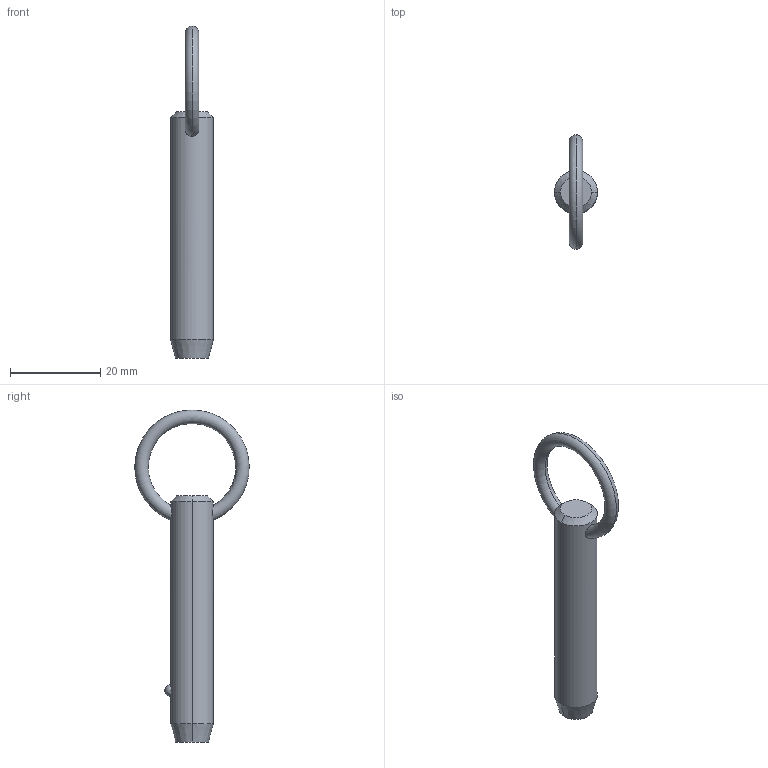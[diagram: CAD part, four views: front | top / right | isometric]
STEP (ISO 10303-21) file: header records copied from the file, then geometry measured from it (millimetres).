
FILE_DESCRIPTION (( 'STEP AP203' ), '1' );
FILE_NAME ('P1250.037-140.step', '2019-07-29T20:00:02', ( '' ), ( '' ), 'SwSTEP 2.0', 'SolidWorks 2017', '' );
FILE_SCHEMA (( 'CONFIG_CONTROL_DESIGN' ));
Length unit declared in the file: millimetre
Products named in the file (1): P1250.037-140
Bounding box: 9.52 x 25.39 x 73.7 mm (x, y, z)
Volume: 4241.2 mm3; surface area: 2276.7 mm2
Topology: 1 solids, 1 shells, 12 faces, 28 edges, 17 vertices
Faces by surface type: cone 4, torus 2, sphere 2, cylinder 2, plane 2
Entity records: 523 total; most frequent: CARTESIAN_POINT 190, DIRECTION 56, ORIENTED_EDGE 48, AXIS2_PLACEMENT_3D 25, EDGE_CURVE 24, VERTEX_POINT 15, EDGE_LOOP 15, CIRCLE 12
